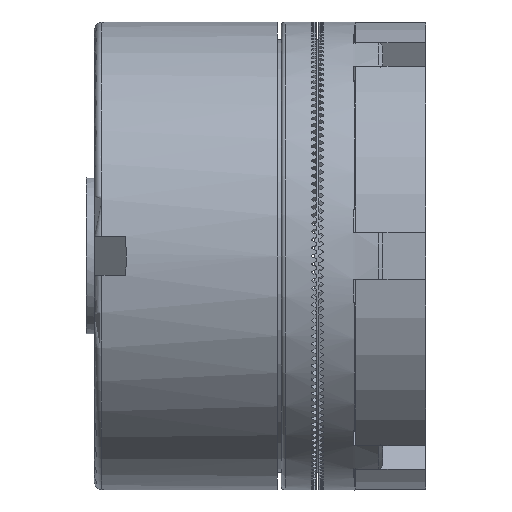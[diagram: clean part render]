
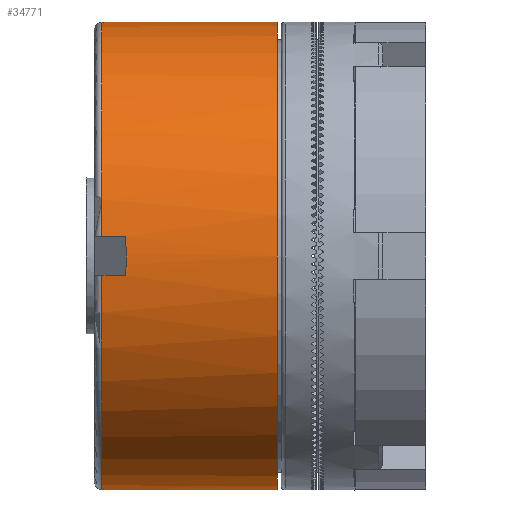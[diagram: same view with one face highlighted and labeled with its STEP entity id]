
A CAD part, front view. The second image highlights one B-rep face of the part: STEP entity #34771.
In plain terms, the highlighted cylindrical face has radius 30 mm (diameter 60 mm), a full revolution.
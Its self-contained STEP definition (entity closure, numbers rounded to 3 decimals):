
#34526=CARTESIAN_POINT('',(9.75,30.0,0.0));
#34527=VERTEX_POINT('',#34526);
#34528=CARTESIAN_POINT('',(9.75,0.0,0.0));
#34529=DIRECTION('',(1.0,0.0,0.0));
#34530=DIRECTION('',(0.0,1.0,0.0));
#34531=AXIS2_PLACEMENT_3D('',#34528,#34529,#34530);
#34532=CIRCLE('',#34531,30.0);
#34533=EDGE_CURVE('',#34527,#34527,#34532,.T.);
#34546=CARTESIAN_POINT('',(-12.75,12.783,27.14));
#34547=VERTEX_POINT('',#34546);
#34572=CARTESIAN_POINT('',(-12.75,-29.896,2.5));
#34573=VERTEX_POINT('',#34572);
#34587=CARTESIAN_POINT('',(-12.75,0.0,0.0));
#34588=DIRECTION('',(1.0,0.0,0.0));
#34589=DIRECTION('',(0.0,1.0,0.0));
#34590=AXIS2_PLACEMENT_3D('',#34587,#34588,#34589);
#34591=CIRCLE('',#34590,30.);
#34592=EDGE_CURVE('',#34547,#34573,#34591,.T.);
#34597=CARTESIAN_POINT('',(-1.5,0.0,0.0));
#34598=DIRECTION('',(1.0,0.0,0.0));
#34599=DIRECTION('',(0.0,1.0,0.0));
#34600=AXIS2_PLACEMENT_3D('',#34597,#34598,#34599);
#34601=CYLINDRICAL_SURFACE('',#34600,30.0);
#34602=CARTESIAN_POINT('',(-9.733,12.783,27.14));
#34603=VERTEX_POINT('',#34602);
#34604=CARTESIAN_POINT('',(-9.733,12.783,27.14));
#34605=DIRECTION('',(-1.0,0.0,0.0));
#34606=VECTOR('',#34605,3.017);
#34607=LINE('',#34604,#34606);
#34608=EDGE_CURVE('',#34603,#34547,#34607,.T.);
#34609=ORIENTED_EDGE('',*,*,#34608,.T.);
#34610=ORIENTED_EDGE('',*,*,#34592,.T.);
#34611=CARTESIAN_POINT('',(-9.733,-29.896,2.5));
#34612=VERTEX_POINT('',#34611);
#34613=CARTESIAN_POINT('',(-12.75,-29.896,2.5));
#34614=DIRECTION('',(1.0,0.0,0.0));
#34615=VECTOR('',#34614,3.017);
#34616=LINE('',#34613,#34615);
#34617=EDGE_CURVE('',#34573,#34612,#34616,.T.);
#34618=ORIENTED_EDGE('',*,*,#34617,.T.);
#34619=CARTESIAN_POINT('',(-9.733,-29.896,-2.5));
#34620=VERTEX_POINT('',#34619);
#34621=CARTESIAN_POINT('',(-39.629,0.0,0.0));
#34622=DIRECTION('',(0.707,0.707,0.0));
#34623=DIRECTION('',(-0.707,0.707,0.0));
#34624=AXIS2_PLACEMENT_3D('',#34621,#34622,#34623);
#34625=ELLIPSE('',#34624,42.426,30.0);
#34626=EDGE_CURVE('',#34612,#34620,#34625,.T.);
#34627=ORIENTED_EDGE('',*,*,#34626,.T.);
#34628=CARTESIAN_POINT('',(-12.75,-29.896,-2.5));
#34629=VERTEX_POINT('',#34628);
#34630=CARTESIAN_POINT('',(-9.733,-29.896,-2.5));
#34631=DIRECTION('',(-1.0,0.0,0.0));
#34632=VECTOR('',#34631,3.017);
#34633=LINE('',#34630,#34632);
#34634=EDGE_CURVE('',#34620,#34629,#34633,.T.);
#34635=ORIENTED_EDGE('',*,*,#34634,.T.);
#34636=CARTESIAN_POINT('',(-12.75,12.783,-27.14));
#34637=VERTEX_POINT('',#34636);
#34638=CARTESIAN_POINT('',(-12.75,0.0,0.0));
#34639=DIRECTION('',(1.0,0.0,0.0));
#34640=DIRECTION('',(0.0,1.0,0.0));
#34641=AXIS2_PLACEMENT_3D('',#34638,#34639,#34640);
#34642=CIRCLE('',#34641,30.);
#34643=EDGE_CURVE('',#34629,#34637,#34642,.T.);
#34644=ORIENTED_EDGE('',*,*,#34643,.T.);
#34645=CARTESIAN_POINT('',(-9.733,12.783,-27.14));
#34646=VERTEX_POINT('',#34645);
#34647=CARTESIAN_POINT('',(-12.75,12.783,-27.14));
#34648=DIRECTION('',(1.0,0.0,0.0));
#34649=VECTOR('',#34648,3.017);
#34650=LINE('',#34647,#34649);
#34651=EDGE_CURVE('',#34637,#34646,#34650,.T.);
#34652=ORIENTED_EDGE('',*,*,#34651,.T.);
#34653=CARTESIAN_POINT('',(-9.733,17.113,-24.64));
#34654=VERTEX_POINT('',#34653);
#34655=CARTESIAN_POINT('',(-39.629,0.0,0.0));
#34656=DIRECTION('',(0.707,-0.354,0.612));
#34657=DIRECTION('',(0.707,0.354,-0.612));
#34658=AXIS2_PLACEMENT_3D('',#34655,#34656,#34657);
#34659=ELLIPSE('',#34658,42.426,30.);
#34660=EDGE_CURVE('',#34646,#34654,#34659,.T.);
#34661=ORIENTED_EDGE('',*,*,#34660,.T.);
#34662=CARTESIAN_POINT('',(-12.75,17.113,-24.64));
#34663=VERTEX_POINT('',#34662);
#34664=CARTESIAN_POINT('',(-9.733,17.113,-24.64));
#34665=DIRECTION('',(-1.0,0.0,0.0));
#34666=VECTOR('',#34665,3.017);
#34667=LINE('',#34664,#34666);
#34668=EDGE_CURVE('',#34654,#34663,#34667,.T.);
#34669=ORIENTED_EDGE('',*,*,#34668,.T.);
#34670=CARTESIAN_POINT('',(-12.75,17.113,24.64));
#34671=VERTEX_POINT('',#34670);
#34672=CARTESIAN_POINT('',(-12.75,0.0,0.0));
#34673=DIRECTION('',(1.0,0.0,0.0));
#34674=DIRECTION('',(0.0,1.0,0.0));
#34675=AXIS2_PLACEMENT_3D('',#34672,#34673,#34674);
#34676=CIRCLE('',#34675,30.);
#34677=EDGE_CURVE('',#34663,#34671,#34676,.T.);
#34678=ORIENTED_EDGE('',*,*,#34677,.T.);
#34679=CARTESIAN_POINT('',(-9.733,17.113,24.64));
#34680=VERTEX_POINT('',#34679);
#34681=CARTESIAN_POINT('',(-12.75,17.113,24.64));
#34682=DIRECTION('',(1.0,0.0,0.0));
#34683=VECTOR('',#34682,3.017);
#34684=LINE('',#34681,#34683);
#34685=EDGE_CURVE('',#34671,#34680,#34684,.T.);
#34686=ORIENTED_EDGE('',*,*,#34685,.T.);
#34687=CARTESIAN_POINT('',(-39.629,0.0,0.0));
#34688=DIRECTION('',(0.707,-0.354,-0.612));
#34689=DIRECTION('',(0.707,0.354,0.612));
#34690=AXIS2_PLACEMENT_3D('',#34687,#34688,#34689);
#34691=ELLIPSE('',#34690,42.426,30.0);
#34692=EDGE_CURVE('',#34680,#34603,#34691,.T.);
#34693=ORIENTED_EDGE('',*,*,#34692,.T.);
#34694=EDGE_LOOP('',(#34609,#34610,#34618,#34627,#34635,#34644,#34652,#34661,#34669,#34678,#34686,#34693));
#34695=FACE_OUTER_BOUND('',#34694,.T.);
#34696=CARTESIAN_POINT('',(-8.75,30.0,0.0));
#34697=VERTEX_POINT('',#34696);
#34698=CARTESIAN_POINT('',(-2.75,30.0,0.0));
#34699=VERTEX_POINT('',#34698);
#34700=CARTESIAN_POINT('',(-8.75,30.0,0.));
#34701=CARTESIAN_POINT('',(-8.75,30.0,-0.377));
#34702=CARTESIAN_POINT('',(-8.675,29.992,-0.779));
#34703=CARTESIAN_POINT('',(-8.368,29.964,-1.518));
#34704=CARTESIAN_POINT('',(-8.138,29.944,-1.855));
#34705=CARTESIAN_POINT('',(-7.605,29.906,-2.388));
#34706=CARTESIAN_POINT('',(-7.268,29.886,-2.618));
#34707=CARTESIAN_POINT('',(-6.529,29.857,-2.925));
#34708=CARTESIAN_POINT('',(-6.127,29.85,-3.));
#34709=CARTESIAN_POINT('',(-5.373,29.85,-3.));
#34710=CARTESIAN_POINT('',(-4.971,29.857,-2.925));
#34711=CARTESIAN_POINT('',(-4.232,29.886,-2.618));
#34712=CARTESIAN_POINT('',(-3.895,29.906,-2.388));
#34713=CARTESIAN_POINT('',(-3.362,29.944,-1.855));
#34714=CARTESIAN_POINT('',(-3.132,29.964,-1.518));
#34715=CARTESIAN_POINT('',(-2.825,29.992,-0.779));
#34716=CARTESIAN_POINT('',(-2.75,30.0,-0.377));
#34717=CARTESIAN_POINT('',(-2.75,30.0,0.));
#34718=B_SPLINE_CURVE_WITH_KNOTS('',3,(#34700,#34701,#34702,#34703,#34704,#34705,#34706,#34707,#34708,#34709,#34710,#34711,#34712,#34713,#34714,#34715,#34716,#34717),.UNSPECIFIED.,.F.,.U.,(4,2,2,2,2,2,2,2,4),(0.452,0.565,0.679,0.792,0.905,1.018,1.131,1.244,1.357),.UNSPECIFIED.);
#34719=EDGE_CURVE('',#34697,#34699,#34718,.T.);
#34720=ORIENTED_EDGE('',*,*,#34719,.T.);
#34721=CARTESIAN_POINT('',(-2.25,30.0,0.));
#34722=VERTEX_POINT('',#34721);
#34723=CARTESIAN_POINT('',(-2.75,30.0,0.0));
#34724=DIRECTION('',(1.0,0.0,0.0));
#34725=VECTOR('',#34724,0.5);
#34726=LINE('',#34723,#34725);
#34727=EDGE_CURVE('',#34699,#34722,#34726,.T.);
#34728=ORIENTED_EDGE('',*,*,#34727,.T.);
#34729=CARTESIAN_POINT('',(-2.75,30.0,0.0));
#34730=DIRECTION('',(1.0,0.0,0.0));
#34731=VECTOR('',#34730,0.5);
#34732=LINE('',#34729,#34731);
#34733=EDGE_CURVE('',#34699,#34722,#34732,.T.);
#34734=ORIENTED_EDGE('',*,*,#34733,.F.);
#34735=CARTESIAN_POINT('',(-2.75,30.0,0.));
#34736=CARTESIAN_POINT('',(-2.75,30.0,0.377));
#34737=CARTESIAN_POINT('',(-2.825,29.992,0.779));
#34738=CARTESIAN_POINT('',(-3.132,29.964,1.518));
#34739=CARTESIAN_POINT('',(-3.362,29.944,1.855));
#34740=CARTESIAN_POINT('',(-3.895,29.906,2.388));
#34741=CARTESIAN_POINT('',(-4.232,29.886,2.618));
#34742=CARTESIAN_POINT('',(-4.971,29.857,2.925));
#34743=CARTESIAN_POINT('',(-5.373,29.85,3.));
#34744=CARTESIAN_POINT('',(-5.75,29.85,3.));
#34745=CARTESIAN_POINT('',(-6.127,29.85,3.));
#34746=CARTESIAN_POINT('',(-6.529,29.857,2.925));
#34747=CARTESIAN_POINT('',(-7.268,29.886,2.618));
#34748=CARTESIAN_POINT('',(-7.605,29.906,2.388));
#34749=CARTESIAN_POINT('',(-8.138,29.944,1.855));
#34750=CARTESIAN_POINT('',(-8.368,29.964,1.518));
#34751=CARTESIAN_POINT('',(-8.675,29.992,0.779));
#34752=CARTESIAN_POINT('',(-8.75,30.0,0.377));
#34753=CARTESIAN_POINT('',(-8.75,30.0,0.));
#34754=B_SPLINE_CURVE_WITH_KNOTS('',3,(#34735,#34736,#34737,#34738,#34739,#34740,#34741,#34742,#34743,#34744,#34745,#34746,#34747,#34748,#34749,#34750,#34751,#34752,#34753),.UNSPECIFIED.,.F.,.U.,(4,2,2,2,3,2,2,2,4),(1.357,1.47,1.583,1.696,1.809,1.922,2.036,2.149,2.262),.UNSPECIFIED.);
#34755=EDGE_CURVE('',#34699,#34697,#34754,.T.);
#34756=ORIENTED_EDGE('',*,*,#34755,.T.);
#34757=CARTESIAN_POINT('',(-9.25,30.0,0.));
#34758=VERTEX_POINT('',#34757);
#34759=CARTESIAN_POINT('',(-9.25,30.0,0.0));
#34760=DIRECTION('',(1.0,0.0,0.0));
#34761=VECTOR('',#34760,0.5);
#34762=LINE('',#34759,#34761);
#34763=EDGE_CURVE('',#34758,#34697,#34762,.T.);
#34764=ORIENTED_EDGE('',*,*,#34763,.F.);
#34765=ORIENTED_EDGE('',*,*,#34763,.T.);
#34766=EDGE_LOOP('',(#34720,#34728,#34734,#34756,#34764,#34765));
#34767=FACE_BOUND('',#34766,.T.);
#34768=ORIENTED_EDGE('',*,*,#34533,.F.);
#34769=EDGE_LOOP('',(#34768));
#34770=FACE_BOUND('',#34769,.T.);
#34771=ADVANCED_FACE('',(#34695,#34767,#34770),#34601,.T.);
